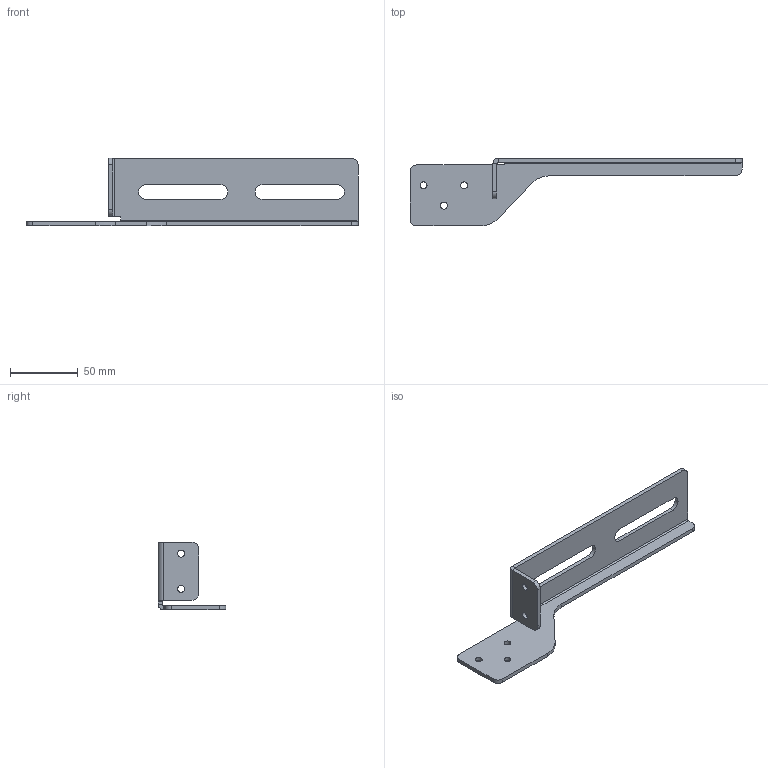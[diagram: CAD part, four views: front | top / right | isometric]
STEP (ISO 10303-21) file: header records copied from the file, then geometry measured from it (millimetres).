
FILE_DESCRIPTION(('STEP AP203'), '1');
FILE_NAME('兴050.R.00.001 镳噔', '', ('UNSPECIFIED'), ('UNSPECIFIED'), 'ASCON STEP Converter 1.6', 'ASCON Math Kernel', '');
FILE_SCHEMA(('CONFIG_CONTROL_DESIGN'));
Length unit declared in the file: millimetre
Products named in the file (1): 倓050.R.00.001
Bounding box: 245 x 50 x 50 mm (x, y, z)
Volume: 41287.5 mm3; surface area: 30782.2 mm2
Topology: 1 solids, 1 shells, 71 faces, 188 edges, 120 vertices
Faces by surface type: plane 40, cylinder 31
Full cylindrical faces by diameter (mm): 5.1 x5
Entity records: 2806 total; most frequent: DIRECTION 389, CARTESIAN_POINT 375, ORIENTED_EDGE 366, EDGE_CURVE 183, AXIS2_PLACEMENT_3D 134, LINE 121, VECTOR 121, VERTEX_POINT 120
